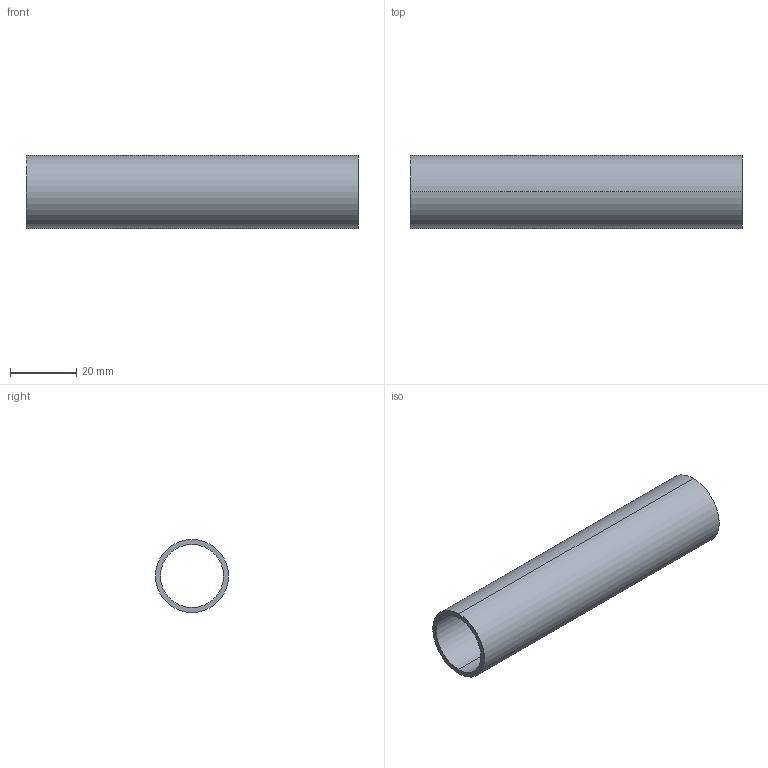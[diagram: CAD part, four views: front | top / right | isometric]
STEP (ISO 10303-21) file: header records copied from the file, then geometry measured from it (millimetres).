
FILE_DESCRIPTION (( 'STEP AP203' ), '1' );
FILE_NAME ('059.022.019.STEP', '2015-06-04T08:32:39', ( '' ), ( '' ), 'SwSTEP 2.0', 'SolidWorks 2012', '' );
FILE_SCHEMA (( 'CONFIG_CONTROL_DESIGN' ));
Length unit declared in the file: millimetre
Products named in the file (1): 059.022.019
Bounding box: 100 x 22 x 22 mm (x, y, z)
Volume: 9660.4 mm3; surface area: 13073.7 mm2
Topology: 1 solids, 1 shells, 6 faces, 12 edges, 8 vertices
Faces by surface type: cylinder 4, plane 2
Entity records: 245 total; most frequent: DIRECTION 34, CARTESIAN_POINT 27, ORIENTED_EDGE 24, AXIS2_PLACEMENT_3D 15, EDGE_CURVE 12, VERTEX_POINT 8, PERSON_AND_ORGANIZATION 8, CIRCLE 8
